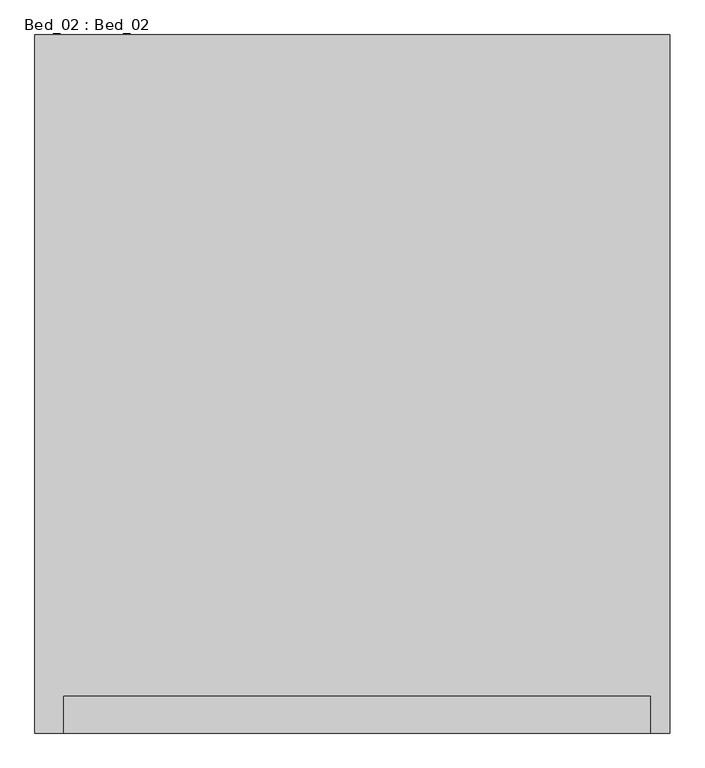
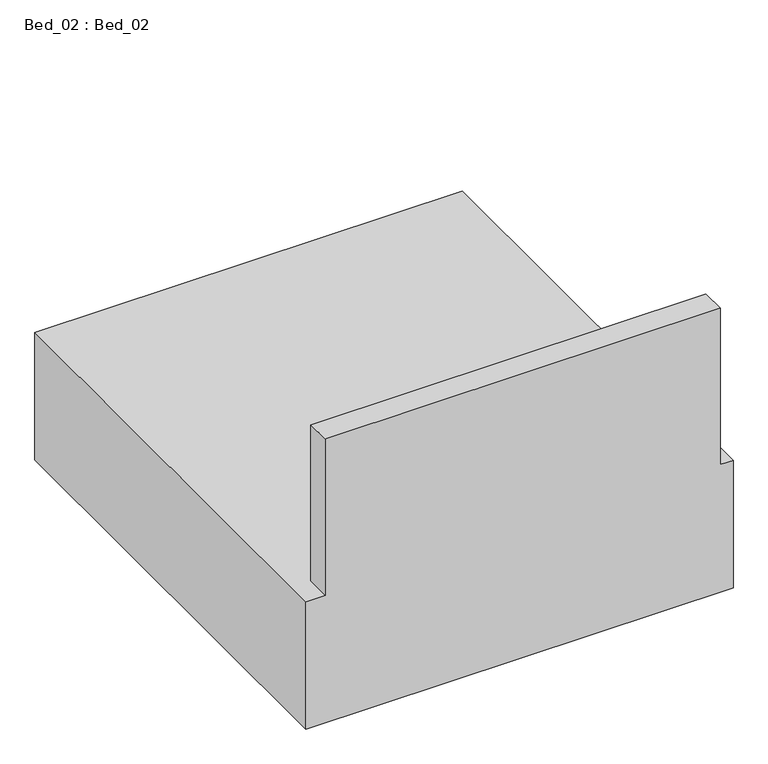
"""IFC4 building model written with IfcOpenShell, lengths in millimetres: furniture geometry, Bed_02 : Bed_02."""

import ifcopenshell
import ifcopenshell.guid

model = None  # the IFC model being written
_history = None  # IfcOwnerHistory: only IFC2X3 demands one
_inside = {}  # id of a spatial element -> (the spatial element, [elements in it])
_under = {}  # id of a project, library or spatial element -> (it, [spatial elements below it])
_declared = {}  # id of a project -> (the project, [libraries it declares])
_typed = {}  # id of a type object -> (the type object, [elements of that type])
_made_of = {}  # id of a material, layer set ... -> (it, [elements and type objects made of it])


def new_model(schema):
    """Start an empty IFC model of exactly this schema.

    Asked for "IFC4X3", IfcOpenShell would pick the latest addendum, in which some entities
    have other attributes; the version numbers below select the first issue.
    IFC2X3 requires an IfcOwnerHistory on every rooted entity: one is made here for all.
    """
    global model, _history
    if schema == "IFC4X3":
        model = ifcopenshell.file(schema_version=(4, 3, 0, 0))
    else:
        model = ifcopenshell.file(schema=schema)
    _inside.clear()
    _under.clear()
    _declared.clear()
    _typed.clear()
    _made_of.clear()
    _history = None
    if model.schema == "IFC2X3":
        org = make("IfcOrganization", Name="unknown")
        user = make(
            "IfcPersonAndOrganization",
            ThePerson=make("IfcPerson", FamilyName="unknown"),
            TheOrganization=org,
        )
        app = make(
            "IfcApplication",
            ApplicationDeveloper=org,
            Version="unknown",
            ApplicationFullName="unknown",
            ApplicationIdentifier="unknown",
        )
        _history = make(
            "IfcOwnerHistory",
            OwningUser=user,
            OwningApplication=app,
            ChangeAction="ADDED",
            CreationDate=0,
        )
    return model


def make(cls, **values):
    """One entity of the class cls with the attributes given. An attribute that is None is left unset."""
    return model.create_entity(
        cls, **{name: value for name, value in values.items() if value is not None}
    )


def rooted(cls, **values):
    """An entity with a GlobalId (a new one), such as an element, a storey or a relation."""
    return make(cls, GlobalId=ifcopenshell.guid.new(), OwnerHistory=_history, **values)


def si_unit(unit_type, name, prefix=None):
    """IfcSIUnit, for example si_unit("LENGTHUNIT", "METRE", prefix="MILLI")."""
    return make("IfcSIUnit", UnitType=unit_type, Prefix=prefix, Name=name)


def assignment(units):
    """IfcUnitAssignment: the units of a project."""
    return None if units is None else make("IfcUnitAssignment", Units=units)


def point(xyz):
    """IfcCartesianPoint."""
    return None if xyz is None else make("IfcCartesianPoint", Coordinates=xyz)


def direction(xyz):
    """IfcDirection."""
    return None if xyz is None else make("IfcDirection", DirectionRatios=xyz)


def frame(location, z_axis=None, x_axis=None):
    """IfcAxis2Placement3D, a coordinate frame: its origin and axes. An axis left out is left unset."""
    return make(
        "IfcAxis2Placement3D",
        Location=point(location),
        Axis=direction(z_axis),
        RefDirection=direction(x_axis),
    )


def origin():
    """The frame at (0, 0, 0) with its axes left unset."""
    return frame((0.0, 0.0, 0.0))


def place(relative_to, where):
    """IfcLocalPlacement: puts the frame where relative to a parent placement (None: the world)."""
    return make(
        "IfcLocalPlacement", PlacementRelTo=relative_to, RelativePlacement=where
    )


def context(
    kind, dimensions, precision=None, world=None, true_north=None, identifier=None
):
    """IfcGeometricRepresentationContext, for example the 3D "Model" context."""
    return make(
        "IfcGeometricRepresentationContext",
        ContextIdentifier=identifier,
        ContextType=kind,
        CoordinateSpaceDimension=dimensions,
        Precision=precision,
        WorldCoordinateSystem=world,
        TrueNorth=true_north,
    )


def project(units=None, contexts=None):
    """IfcProject with its units and contexts."""
    return rooted(
        "IfcProject",
        Name="project",
        RepresentationContexts=contexts,
        UnitsInContext=assignment(units),
    )


def spatial(cls, under=None, at=None, **own):
    """A site, building, storey or space (cls), placed at a placement, below another one or the project."""
    s = rooted(cls, ObjectPlacement=at, **own)
    if under is not None:
        _under.setdefault(under.id(), (under, []))[1].append(s)
    return s


def faces_of(points, faces, orient=None, outer=None):
    """IfcFace entities. A face is a list of loops; a loop is a list of indices into points, from 0.

    orient and outer hold one flag for each loop. By default every Orientation is true, the
    first loop of a face is its IfcFaceOuterBound and the others are IfcFaceBound.
    """
    made = []
    for i, loops in enumerate(faces):
        bounds = []
        for j, loop in enumerate(loops):
            is_outer = j == 0 if outer is None else outer[i][j]
            bounds.append(
                make(
                    "IfcFaceOuterBound" if is_outer else "IfcFaceBound",
                    Bound=make("IfcPolyLoop", Polygon=[points[k] for k in loop]),
                    Orientation=True if orient is None else orient[i][j],
                )
            )
        made.append(make("IfcFace", Bounds=bounds))
    return made


def faceted_brep(points, faces, orient=None, outer=None, voids=None):
    """IfcFacetedBrep: a solid bounded by flat faces; with voids (closed shells), ...WithVoids."""
    shared = [point(p) for p in points]
    hull = make("IfcClosedShell", CfsFaces=faces_of(shared, faces, orient, outer))
    if voids is None:
        return make("IfcFacetedBrep", Outer=hull)
    return make(
        "IfcFacetedBrepWithVoids",
        Outer=hull,
        Voids=[
            make(cls, CfsFaces=faces_of(shared, fs, o, b)) for cls, fs, o, b in voids
        ],
    )


def shape(context_of_items, identifier, shape_type, items):
    """IfcShapeRepresentation: the items that make up one representation, for example the "Body"."""
    return make(
        "IfcShapeRepresentation",
        ContextOfItems=context_of_items,
        RepresentationIdentifier=identifier,
        RepresentationType=shape_type,
        Items=items,
    )


def source(mapping_origin, context_of_items, identifier, shape_type, items):
    """IfcRepresentationMap: a shape defined once, which mapped items show again and again."""
    return make(
        "IfcRepresentationMap",
        MappingOrigin=mapping_origin,
        MappedRepresentation=shape(context_of_items, identifier, shape_type, items),
    )


def transform(
    local_origin,
    x_axis=None,
    y_axis=None,
    z_axis=None,
    scale=None,
    scale2=None,
    scale3=None,
    uniform=True,
):
    """IfcCartesianTransformationOperator3D, or its non-uniform kind. x_axis, y_axis, z_axis: its Axis1, 2, 3."""
    if uniform:
        return make(
            "IfcCartesianTransformationOperator3D",
            Axis1=direction(x_axis),
            Axis2=direction(y_axis),
            LocalOrigin=point(local_origin),
            Scale=scale,
            Axis3=direction(z_axis),
        )
    return make(
        "IfcCartesianTransformationOperator3DnonUniform",
        Axis1=direction(x_axis),
        Axis2=direction(y_axis),
        LocalOrigin=point(local_origin),
        Scale=scale,
        Axis3=direction(z_axis),
        Scale2=scale2,
        Scale3=scale3,
    )


def mapped(mapping_source, mapping_target):
    """IfcMappedItem: shows the shape of a source again, moved by a transform."""
    return make(
        "IfcMappedItem", MappingSource=mapping_source, MappingTarget=mapping_target
    )


def made_of(thing, what):
    """Note that an element or type object is made of a material, layer set ...; save() writes the relation."""
    if what is not None:
        _made_of.setdefault(what.id(), (what, []))[1].append(thing)
    return thing


def element(
    cls,
    number,
    at=None,
    inside=None,
    cuts=None,
    type_object=None,
    material=None,
    context=None,
    identifier="Body",
    shape_type=None,
    held_by="IfcProductDefinitionShape",
    body=None,
    shapes=None,
    **own,
):
    """One element of the class cls, such as IfcWall. Its Tag is "e" and its number.

    at: its placement. inside: the storey or other place that contains it. cuts: it is an
    opening in that element (IfcRelVoidsElement). A single representation is given by context,
    identifier, shape_type and body (its items); several are given by shapes. held_by: the class
    of the entity that holds the representations. save() writes the other relations.
    """
    e = rooted(cls, Tag="e%d" % number, ObjectPlacement=at, **own)
    if body is not None:
        shapes = [shape(context, identifier, shape_type, body)]
    if shapes is not None:
        e.Representation = make(held_by, Representations=shapes)
    if inside is not None:
        _inside.setdefault(inside.id(), (inside, []))[1].append(e)
    if cuts is not None:
        rooted(
            "IfcRelVoidsElement", RelatingBuildingElement=cuts, RelatedOpeningElement=e
        )
    if type_object is not None:
        _typed.setdefault(type_object.id(), (type_object, []))[1].append(e)
    return made_of(e, material)


def aggregate(whole, parts):
    """IfcRelAggregates: a whole, such as a stair, and the parts it consists of."""
    return rooted("IfcRelAggregates", RelatingObject=whole, RelatedObjects=parts)


def save(model, path):
    """Write the relations noted so far, then the file.

    IfcRelAggregates (storeys below a building ...), IfcRelContainedInSpatialStructure (elements
    in a storey), IfcRelDefinesByType, IfcRelAssociatesMaterial and IfcRelDeclares: one each for
    every whole, place, type object, material and project.
    """
    for whole, parts in _under.values():
        aggregate(whole, parts)
    for where, things in _inside.values():
        rooted(
            "IfcRelContainedInSpatialStructure",
            RelatedElements=things,
            RelatingStructure=where,
        )
    for kind, things in _typed.values():
        rooted("IfcRelDefinesByType", RelatedObjects=things, RelatingType=kind)
    for what, things in _made_of.values():
        rooted("IfcRelAssociatesMaterial", RelatedObjects=things, RelatingMaterial=what)
    for by, libraries in _declared.values():
        rooted("IfcRelDeclares", RelatingContext=by, RelatedDefinitions=libraries)
    model.write(path)


def bed_02_bed_02_e58199c8(model_context):
    return source(origin(), model_context, "Body", "Brep", [
        faceted_brep([(977.0323262, 1073.5202853, 616.11436), (-977.0323262, 1073.5202853, 616.11436), (-977.0323262, -1073.5202853, 616.11436), (-888.8078974, -1073.5202853, 616.11436), (-888.8078974, -961.0906652, 616.11436), (917.6298481, -961.0906652, 616.11436), (917.6298481, -1073.5202853, 616.11436), (977.0323262, -1073.5202853, 616.11436), (977.0323262, 1073.5202853, 0.0), (977.0323262, -1073.5202853, 0.0), (-977.0323262, -1073.5202853, 0.0), (-977.0323262, 1073.5202853, 0.0), (917.6298481, -1073.5202853, 1373.1781562), (-888.8078974, -1073.5202853, 1373.1781562), (917.6298481, -961.0906652, 1373.1781562), (-888.8078974, -961.0906652, 1373.1781562)], [[[0, 1, 2, 3, 4, 5, 6, 7]], [[8, 9, 10, 11]], [[1, 0, 8, 11]], [[2, 1, 11, 10]], [[10, 9, 7, 6, 12, 13, 3, 2]], [[0, 7, 9, 8]], [[14, 15, 13, 12]], [[15, 14, 5, 4]], [[13, 15, 4, 3]], [[14, 12, 6, 5]]]),
    ])


if __name__ == "__main__":
    model = new_model("IFC4")
    model_context = context("Model", 3, world=origin())
    ifc_project = project(units=[si_unit("LENGTHUNIT", "METRE", prefix="MILLI")], contexts=[model_context])
    site = spatial("IfcSite", under=ifc_project)
    building = spatial("IfcBuilding", under=site)
    placement = place(None, origin())
    bed_02_bed_02_shape = bed_02_bed_02_e58199c8(model_context)
    element("IfcFurniture", 1, ObjectType="Bed_02 : Bed_02", at=placement, inside=building, context=model_context, shape_type="MappedRepresentation", body=[
        mapped(bed_02_bed_02_shape, transform((0.0, 0.0, 0.0), x_axis=(1.0, 0.0, 0.0), y_axis=(0.0, 1.0, 0.0), z_axis=(0.0, 0.0, 1.0))),
    ])
    save(model, "model.ifc")
